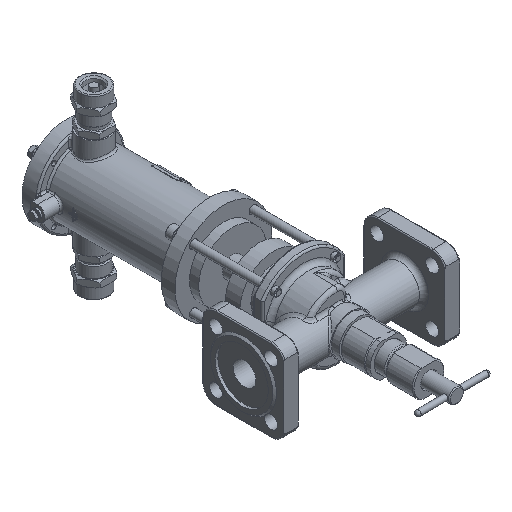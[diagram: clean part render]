
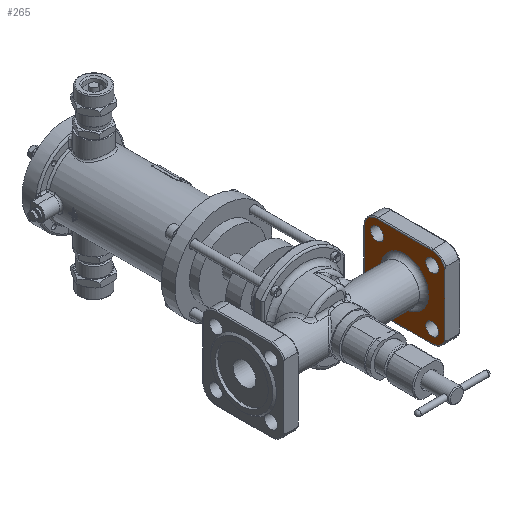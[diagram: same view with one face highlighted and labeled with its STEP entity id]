
A CAD part, isometric view. The second image highlights one B-rep face of the part: STEP entity #265.
In plain terms, the highlighted planar face has unit normal (-1, 0, 0).
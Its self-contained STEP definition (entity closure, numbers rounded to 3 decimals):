
#265=ADVANCED_FACE('',(#7026,#7028,#7030,#7032,#7034,#7036),#7038,.T.);
#7026=FACE_BOUND('',#7027,.T.);
#7027=EDGE_LOOP('',(#22200));
#7028=FACE_BOUND('',#7029,.T.);
#7029=EDGE_LOOP('',(#22201));
#7030=FACE_BOUND('',#7031,.T.);
#7031=EDGE_LOOP('',(#22202));
#7032=FACE_BOUND('',#7033,.T.);
#7033=EDGE_LOOP('',(#22203));
#7034=FACE_BOUND('',#7035,.T.);
#7035=EDGE_LOOP('',(#22204));
#7036=FACE_OUTER_BOUND('',#7037,.T.);
#7037=EDGE_LOOP('',(#22205,#22206,#22207,#22208,#22209,#22210,#22211,#22212));
#7038=PLANE('',#7039);
#7039=AXIS2_PLACEMENT_3D('',#7040,#7041,#7042);
#7040=CARTESIAN_POINT('',(80.,0.,0.));
#7041=DIRECTION('',(-1.,0.,0.));
#7042=DIRECTION('',(0.,1.,0.));
#22200=ORIENTED_EDGE('',*,*,#33882,.F.);
#22201=ORIENTED_EDGE('',*,*,#33932,.T.);
#22202=ORIENTED_EDGE('',*,*,#33933,.T.);
#22203=ORIENTED_EDGE('',*,*,#33934,.T.);
#22204=ORIENTED_EDGE('',*,*,#33935,.T.);
#22205=ORIENTED_EDGE('',*,*,#33936,.T.);
#22206=ORIENTED_EDGE('',*,*,#33937,.T.);
#22207=ORIENTED_EDGE('',*,*,#33938,.T.);
#22208=ORIENTED_EDGE('',*,*,#33939,.T.);
#22209=ORIENTED_EDGE('',*,*,#33940,.T.);
#22210=ORIENTED_EDGE('',*,*,#33941,.T.);
#22211=ORIENTED_EDGE('',*,*,#33942,.T.);
#22212=ORIENTED_EDGE('',*,*,#33943,.T.);
#33882=EDGE_CURVE('',#39016,#39016,#39018,.T.);
#33932=EDGE_CURVE('',#39095,#39095,#39096,.T.);
#33933=EDGE_CURVE('',#39097,#39097,#39098,.T.);
#33934=EDGE_CURVE('',#39099,#39099,#39100,.T.);
#33935=EDGE_CURVE('',#39101,#39101,#39102,.T.);
#33936=EDGE_CURVE('',#39103,#39104,#39105,.F.);
#33937=EDGE_CURVE('',#39104,#39106,#39107,.F.);
#33938=EDGE_CURVE('',#39106,#39108,#39109,.T.);
#33939=EDGE_CURVE('',#39108,#39110,#39111,.F.);
#33940=EDGE_CURVE('',#39110,#39112,#39113,.T.);
#33941=EDGE_CURVE('',#39112,#39114,#39115,.F.);
#33942=EDGE_CURVE('',#39114,#39116,#39117,.T.);
#33943=EDGE_CURVE('',#39116,#39103,#39118,.F.);
#39016=VERTEX_POINT('',#49471);
#39018=CIRCLE('',#49476,26.);
#39095=VERTEX_POINT('',#49838);
#39096=CIRCLE('',#49839,7.);
#39097=VERTEX_POINT('',#49843);
#39098=CIRCLE('',#49844,7.);
#39099=VERTEX_POINT('',#49848);
#39100=CIRCLE('',#49849,7.);
#39101=VERTEX_POINT('',#49853);
#39102=CIRCLE('',#49854,7.);
#39103=VERTEX_POINT('',#49858);
#39104=VERTEX_POINT('',#49859);
#39105=LINE('',#49860,#49861);
#39106=VERTEX_POINT('',#49863);
#39107=CIRCLE('',#49864,14.);
#39108=VERTEX_POINT('',#49868);
#39109=LINE('',#49869,#49870);
#39110=VERTEX_POINT('',#49872);
#39111=CIRCLE('',#49873,14.);
#39112=VERTEX_POINT('',#49877);
#39113=LINE('',#49878,#49879);
#39114=VERTEX_POINT('',#49881);
#39115=CIRCLE('',#49882,14.);
#39116=VERTEX_POINT('',#49886);
#39117=LINE('',#49887,#49888);
#39118=CIRCLE('',#49890,14.);
#49471=CARTESIAN_POINT('',(80.,26.,0.));
#49476=AXIS2_PLACEMENT_3D('',#49477,#49478,#49479);
#49477=CARTESIAN_POINT('',(80.,0.,0.));
#49478=DIRECTION('',(-1.,0.,0.));
#49479=DIRECTION('',(0.,1.,0.));
#49838=CARTESIAN_POINT('',(80.,30.052,37.052));
#49839=AXIS2_PLACEMENT_3D('',#49840,#49841,#49842);
#49840=CARTESIAN_POINT('',(80.,30.052,30.052));
#49841=DIRECTION('',(1.,0.,0.));
#49842=DIRECTION('',(0.,0.,1.));
#49843=CARTESIAN_POINT('',(80.,-30.052,37.052));
#49844=AXIS2_PLACEMENT_3D('',#49845,#49846,#49847);
#49845=CARTESIAN_POINT('',(80.,-30.052,30.052));
#49846=DIRECTION('',(1.,0.,0.));
#49847=DIRECTION('',(0.,0.,1.));
#49848=CARTESIAN_POINT('',(80.,-30.052,-23.052));
#49849=AXIS2_PLACEMENT_3D('',#49850,#49851,#49852);
#49850=CARTESIAN_POINT('',(80.,-30.052,-30.052));
#49851=DIRECTION('',(1.,0.,0.));
#49852=DIRECTION('',(0.,0.,1.));
#49853=CARTESIAN_POINT('',(80.,30.052,-23.052));
#49854=AXIS2_PLACEMENT_3D('',#49855,#49856,#49857);
#49855=CARTESIAN_POINT('',(80.,30.052,-30.052));
#49856=DIRECTION('',(1.,0.,0.));
#49857=DIRECTION('',(0.,0.,1.));
#49858=CARTESIAN_POINT('',(80.,-44.,-30.));
#49859=CARTESIAN_POINT('',(80.,-44.,30.));
#49860=CARTESIAN_POINT('',(80.,-44.,30.));
#49861=VECTOR('',#49862,1.);
#49862=DIRECTION('',(0.,0.,-1.));
#49863=CARTESIAN_POINT('',(80.,-30.,44.));
#49864=AXIS2_PLACEMENT_3D('',#49865,#49866,#49867);
#49865=CARTESIAN_POINT('',(80.,-30.,30.));
#49866=DIRECTION('',(1.,0.,0.));
#49867=DIRECTION('',(0.,0.,1.));
#49868=CARTESIAN_POINT('',(80.,30.,44.));
#49869=CARTESIAN_POINT('',(80.,-30.,44.));
#49870=VECTOR('',#49871,1.);
#49871=DIRECTION('',(0.,1.,0.));
#49872=CARTESIAN_POINT('',(80.,44.,30.));
#49873=AXIS2_PLACEMENT_3D('',#49874,#49875,#49876);
#49874=CARTESIAN_POINT('',(80.,30.,30.));
#49875=DIRECTION('',(1.,0.,0.));
#49876=DIRECTION('',(0.,1.,0.));
#49877=CARTESIAN_POINT('',(80.,44.,-30.));
#49878=CARTESIAN_POINT('',(80.,44.,30.));
#49879=VECTOR('',#49880,1.);
#49880=DIRECTION('',(0.,0.,-1.));
#49881=CARTESIAN_POINT('',(80.,30.,-44.));
#49882=AXIS2_PLACEMENT_3D('',#49883,#49884,#49885);
#49883=CARTESIAN_POINT('',(80.,30.,-30.));
#49884=DIRECTION('',(1.,0.,0.));
#49885=DIRECTION('',(0.,0.,-1.));
#49886=CARTESIAN_POINT('',(80.,-30.,-44.));
#49887=CARTESIAN_POINT('',(80.,30.,-44.));
#49888=VECTOR('',#49889,1.);
#49889=DIRECTION('',(0.,-1.,0.));
#49890=AXIS2_PLACEMENT_3D('',#49891,#49892,#49893);
#49891=CARTESIAN_POINT('',(80.,-30.,-30.));
#49892=DIRECTION('',(1.,0.,0.));
#49893=DIRECTION('',(0.,-1.,0.));
